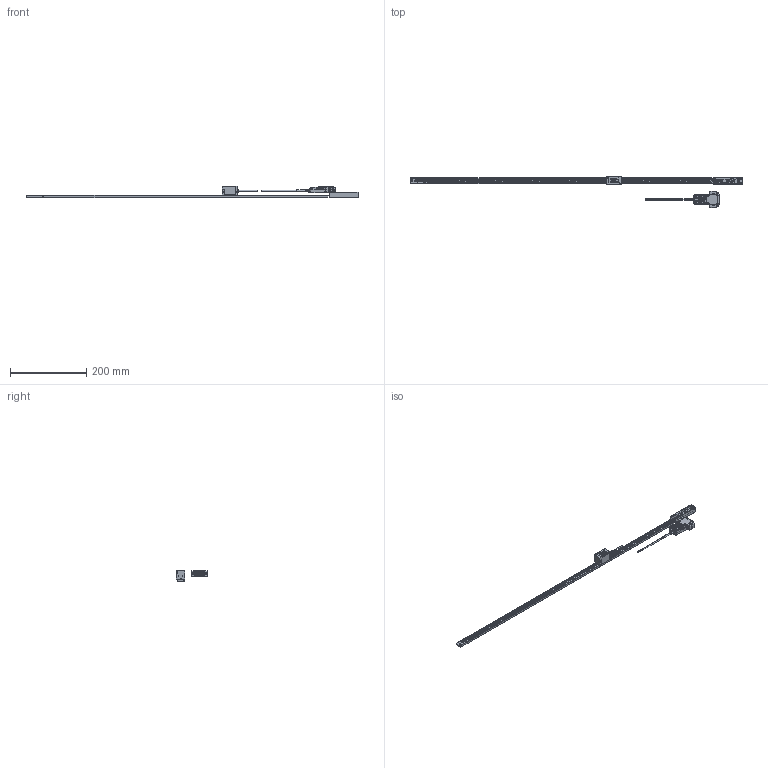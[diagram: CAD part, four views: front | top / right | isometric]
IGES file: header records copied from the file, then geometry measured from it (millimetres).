
Start section: Elysium IGES Interface
Global section: file name: 89H\\Utsu119s\kiyo_cad\data\3D\ABS ST1300\HP掲載用_201708\ST1300-Dタイプ\PKG\ST1300-700D.igs; native system: Creo Elements/Direct Modeling 18.1B  29-Sep-2012; preprocessor: Creo Element/Direct IGES_3D V2.2; author: Unknown; organization: Unknown; date: 20180228.164424; units: millimetre
Bounding box: 873 x 83 x 30.1 mm (x, y, z)
Volume: 94331.5 mm3; surface area: 67978.3 mm2
Topology: 3 solids, 10 shells, 3529 faces, 9695 edges, 6328 vertices
Faces by surface type: bspline 3529
